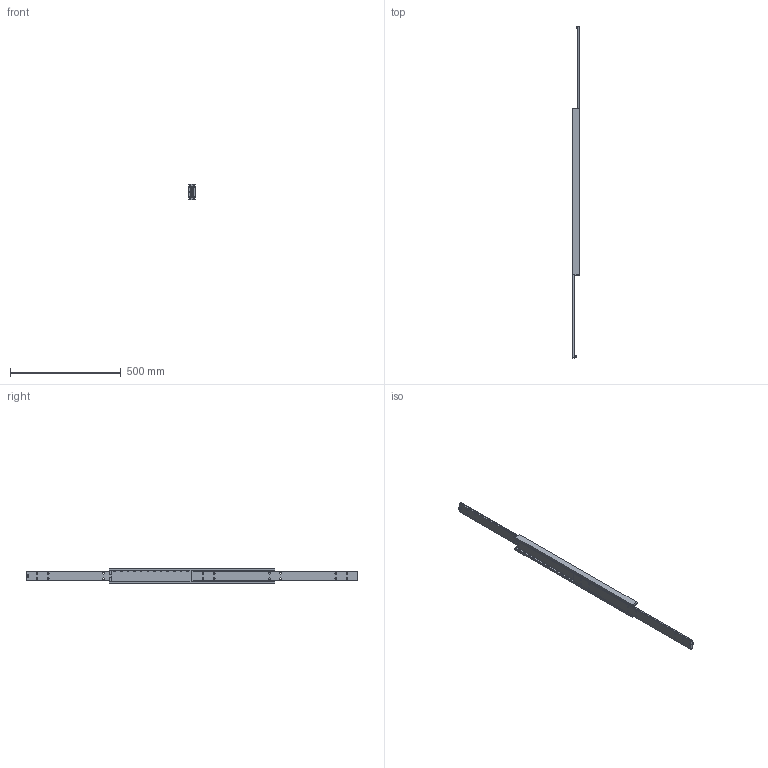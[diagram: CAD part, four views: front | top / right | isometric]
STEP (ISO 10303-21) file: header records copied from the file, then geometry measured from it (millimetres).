
FILE_DESCRIPTION(/* description */ (''),/* implementation_level */ '2;1');
FILE_NAME(/* name */ 'D:\Zeichnungen Schienen Komplett\MX-DTP70\MX-DTP70.075\MX-DTP70.075_ausgefahren.step',/* time_stamp */ '2022-03-03T13:13:54+01:00',/* author */ ('zmile'),/* organization */ (''),/* preprocessor_version */ 'ST-DEVELOPER v16.13',/* originating_system */ 'AutoCAD Mechanical',/* authorisation */ '');
FILE_SCHEMA (('AUTOMOTIVE_DESIGN { 1 0 10303 214 3 1 1 }'));
Length unit declared in the file: millimetre
Products named in the file (1): Product
Bounding box: 32 x 1500 x 70 mm (x, y, z)
Volume: 1277346.4 mm3; surface area: 473761.8 mm2
Topology: 53 solids, 55 shells, 182 faces, 592 edges, 424 vertices
Faces by surface type: plane 82, sphere 48, cylinder 38, bspline 8, torus 6
Full cylindrical faces by diameter (mm): 8 x24, 13 x2
Entity records: 12595 total; most frequent: CARTESIAN_POINT 7523, DIRECTION 1026, ORIENTED_EDGE 796, EDGE_CURVE 462, VERTEX_POINT 422, AXIS2_PLACEMENT_3D 407, EDGE_LOOP 362, CIRCLE 228
